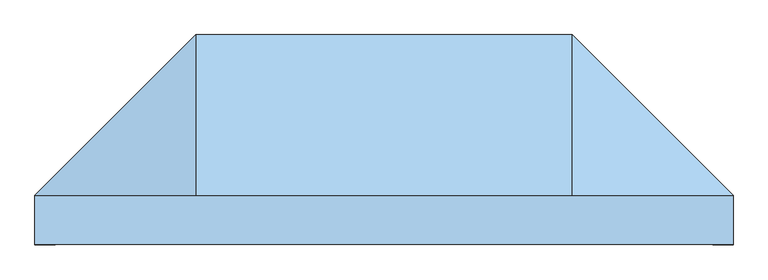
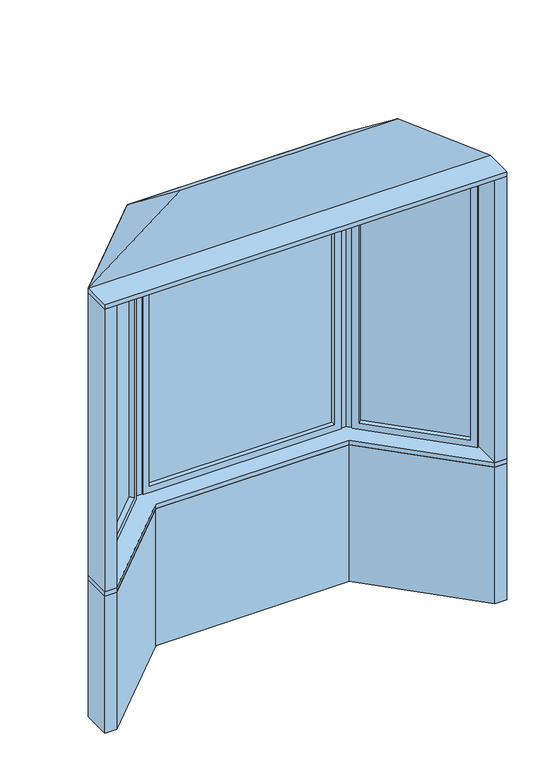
"""IFC4 building model written with IfcOpenShell, lengths in millimetres: window geometry, Pollard_Windows_Tudor Casement Bows and Bays : AML-BAY 45 AFR0616-10-600."""

from ifc_helpers import new_model, si_unit, frame, origin, origin_with_axes, place, context, project, spatial, polyline, outline, extrude, faceted_brep, source, transform, mapped, element, save


def window_bf1c5495(model_context):
    return source(origin(), model_context, "Body", "SolidModel", [
        extrude(outline(polyline([(1010.5964271, 104.763169), (1007.0043247, 101.1710666), (611.3827115, 496.7926797), (614.974814, 500.3847822), (1010.5964271, 104.763169)])), frame((0.0, 0.0, 823.1628), z_axis=(0.0, 0.0, 1.0), x_axis=(1.0, 0.0, 0.0)), (0.0, 0.0, 1.0), 1553.6704),
        faceted_brep([(1001.616171, 113.7434252, 835.8628), (1001.616171, 113.7434252, 2364.1332), (1019.5766833, 131.7039374, 2364.1332), (1019.5766833, 131.7039374, 835.8628), (1007.0043247, 101.1710666, 823.1628), (1007.0043247, 101.1710666, 2376.8332), (1010.5964271, 104.763169, 2376.8332), (1010.5964271, 104.763169, 823.1628), (980.0635563, 92.1908105, 835.8628), (980.0635563, 92.1908105, 2364.1332), (998.0240686, 110.1513227, 2364.1332), (998.0240686, 110.1513227, 835.8628), (1044.9369265, 106.3436941, 799.998), (1044.9369265, 106.3436941, 2399.998), (1005.4237996, 66.8305672, 2399.998), (1005.4237996, 66.8305672, 799.998), (623.9550701, 491.4045261, 2364.1332), (641.9155823, 509.3650383, 2364.1332), (611.3827115, 496.7926797, 2376.8332), (614.974814, 500.3847822, 2376.8332), (602.4024554, 469.8519114, 2364.1332), (620.3629677, 487.8124236, 2364.1332), (616.5553391, 534.7252816, 2399.998), (577.0422121, 495.2121547, 2399.998), (623.9550701, 491.4045261, 835.8628), (641.9155823, 509.3650383, 835.8628), (611.3827115, 496.7926797, 823.1628), (614.974814, 500.3847822, 823.1628), (602.4024554, 469.8519114, 835.8628), (620.3629677, 487.8124236, 835.8628), (616.5553391, 534.7252816, 799.998), (577.0422121, 495.2121547, 799.998)], [[[0, 1, 2, 3]], [[4, 5, 6, 7]], [[8, 9, 10, 11]], [[12, 13, 14, 15]], [[1, 16, 17, 2]], [[5, 18, 19, 6]], [[9, 20, 21, 10]], [[13, 22, 23, 14]], [[16, 24, 25, 17]], [[18, 26, 27, 19]], [[20, 28, 29, 21]], [[22, 30, 31, 23]], [[24, 0, 3, 25]], [[7, 6, 19, 27], [1, 0, 24, 16]], [[26, 4, 7, 27]], [[5, 4, 26, 18], [11, 10, 21, 29]], [[28, 8, 11, 29]], [[15, 14, 23, 31], [9, 8, 28, 20]], [[30, 12, 15, 31]], [[13, 12, 30, 22], [3, 2, 17, 25]]]),
        extrude(outline(polyline([(-614.974814, 500.3847822), (-611.3827115, 496.7926797), (-1007.0043247, 101.1710666), (-1010.5964271, 104.763169), (-614.974814, 500.3847822)])), frame((0.0, 0.0, 823.1628), z_axis=(0.0, 0.0, 1.0), x_axis=(1.0, 0.0, 0.0)), (0.0, 0.0, 1.0), 1553.6704),
        faceted_brep([(-620.3629677, 487.8124236, 2364.1332), (-620.3629677, 487.8124236, 835.8628), (-602.4024554, 469.8519114, 835.8628), (-602.4024554, 469.8519114, 2364.1332), (-614.974814, 500.3847822, 2376.8332), (-614.974814, 500.3847822, 823.1628), (-611.3827115, 496.7926797, 823.1628), (-611.3827115, 496.7926797, 2376.8332), (-641.9155823, 509.3650383, 2364.1332), (-641.9155823, 509.3650383, 835.8628), (-623.9550701, 491.4045261, 835.8628), (-623.9550701, 491.4045261, 2364.1332), (-577.0422121, 495.2121547, 2399.998), (-577.0422121, 495.2121547, 799.998), (-616.5553391, 534.7252816, 799.998), (-616.5553391, 534.7252816, 2399.998), (-998.0240686, 110.1513227, 835.8628), (-980.0635563, 92.1908105, 835.8628), (-1010.5964271, 104.763169, 823.1628), (-1007.0043247, 101.1710666, 823.1628), (-1019.5766833, 131.7039374, 835.8628), (-1001.616171, 113.7434252, 835.8628), (-1005.4237996, 66.8305672, 799.998), (-1044.9369265, 106.3436941, 799.998), (-998.0240686, 110.1513227, 2364.1332), (-980.0635563, 92.1908105, 2364.1332), (-1010.5964271, 104.763169, 2376.8332), (-1007.0043247, 101.1710666, 2376.8332), (-1019.5766833, 131.7039374, 2364.1332), (-1001.616171, 113.7434252, 2364.1332), (-1005.4237996, 66.8305672, 2399.998), (-1044.9369265, 106.3436941, 2399.998)], [[[0, 1, 2, 3]], [[4, 5, 6, 7]], [[8, 9, 10, 11]], [[12, 13, 14, 15]], [[1, 16, 17, 2]], [[5, 18, 19, 6]], [[9, 20, 21, 10]], [[13, 22, 23, 14]], [[16, 24, 25, 17]], [[18, 26, 27, 19]], [[20, 28, 29, 21]], [[22, 30, 31, 23]], [[13, 12, 30, 22], [3, 2, 17, 25]], [[24, 0, 3, 25]], [[7, 6, 19, 27], [1, 0, 24, 16]], [[26, 4, 7, 27]], [[5, 4, 26, 18], [11, 10, 21, 29]], [[28, 8, 11, 29]], [[15, 14, 23, 31], [9, 8, 28, 20]], [[30, 12, 15, 31]]]),
        extrude(outline(polyline([(508.0352, 544.6806207), (508.0352, 539.6006207), (-508.0352, 539.6006207), (-508.0352, 544.6806207), (508.0352, 544.6806207)])), frame((0.0, 0.0, 823.1628), z_axis=(0.0, 0.0, 1.0), x_axis=(1.0, 0.0, 0.0)), (0.0, 0.0, 1.0), 1553.6704),
        faceted_brep([(495.3352, 544.6806207, 835.8628), (495.3352, 544.6806207, 2364.1332), (495.3352, 570.0806207, 2364.1332), (495.3352, 570.0806207, 835.8628), (508.0352, 539.6006207, 823.1628), (508.0352, 539.6006207, 2376.8332), (508.0352, 544.6806207, 2376.8332), (508.0352, 544.6806207, 823.1628), (495.3352, 514.2006207, 835.8628), (495.3352, 514.2006207, 2364.1332), (495.3352, 539.6006207, 2364.1332), (495.3352, 539.6006207, 835.8628), (531.2, 570.0806207, 799.998), (531.2, 570.0806207, 2399.998), (531.2, 514.2006207, 2399.998), (531.2, 514.2006207, 799.998), (-495.3352, 544.6806207, 2364.1332), (-495.3352, 570.0806207, 2364.1332), (-508.0352, 539.6006207, 2376.8332), (-508.0352, 544.6806207, 2376.8332), (-495.3352, 514.2006207, 2364.1332), (-495.3352, 539.6006207, 2364.1332), (-531.2, 570.0806207, 2399.998), (-531.2, 514.2006207, 2399.998), (-495.3352, 544.6806207, 835.8628), (-495.3352, 570.0806207, 835.8628), (-508.0352, 539.6006207, 823.1628), (-508.0352, 544.6806207, 823.1628), (-495.3352, 514.2006207, 835.8628), (-495.3352, 539.6006207, 835.8628), (-531.2, 570.0806207, 799.998), (-531.2, 514.2006207, 799.998)], [[[0, 1, 2, 3]], [[4, 5, 6, 7]], [[8, 9, 10, 11]], [[12, 13, 14, 15]], [[1, 16, 17, 2]], [[5, 18, 19, 6]], [[9, 20, 21, 10]], [[13, 22, 23, 14]], [[16, 24, 25, 17]], [[18, 26, 27, 19]], [[20, 28, 29, 21]], [[22, 30, 31, 23]], [[13, 12, 30, 22], [3, 2, 17, 25]], [[24, 0, 3, 25]], [[7, 6, 19, 27], [1, 0, 24, 16]], [[26, 4, 7, 27]], [[5, 4, 26, 18], [11, 10, 21, 29]], [[28, 8, 11, 29]], [[15, 14, 23, 31], [9, 8, 28, 20]], [[30, 12, 15, 31]]]),
        faceted_brep([(1076.5, 74.7806207, 2425.398), (-1076.5, 74.7806207, 2425.398), (-581.2, 570.0806207, 2425.398), (581.2, 570.0806207, 2425.398), (-581.2, 74.7806207, 2806.398), (581.2, 74.7806207, 2806.398)], [[[0, 1, 2, 3]], [[1, 4, 2]], [[2, 4, 5, 3]], [[3, 5, 0]], [[0, 5, 4, 1]]]),
        extrude(outline(polyline([(-1076.5, -77.6193793), (-1076.5, 74.7806207), (-581.2, 570.0806207), (581.2, 570.0806207), (1076.5, 74.7806207), (1076.5, -77.6193793), (-1076.5, -77.6193793)])), frame((0.0, 0.0, 2399.998), z_axis=(0.0, 0.0, 1.0), x_axis=(1.0, 0.0, 0.0)), (0.0, 0.0, 1.0), 25.4),
        extrude(outline(polyline([(-1076.5, 74.7806207), (-1044.9369265, 106.3436941), (-1013.3738531, 74.7806207), (-1013.3738531, -77.6193793), (-1076.5, -77.6193793), (-1076.5, 74.7806207)])), frame((0.0, 0.0, 799.998), z_axis=(0.0, 0.0, 1.0), x_axis=(1.0, 0.0, 0.0)), (0.0, 0.0, 1.0), 1600.0),
        extrude(outline(polyline([(1076.5, -77.6193793), (1013.3738531, -77.6193793), (1013.3738531, 74.7806207), (1044.9369265, 106.3436941), (1076.5, 74.7806207), (1076.5, -77.6193793)])), frame((0.0, 0.0, 799.998), z_axis=(0.0, 0.0, 1.0), x_axis=(1.0, 0.0, 0.0)), (0.0, 0.0, 1.0), 1600.0),
        extrude(outline(polyline([(581.2, 570.0806207), (616.5553391, 534.7252816), (581.2, 499.3699425), (560.4893219, 520.0806207), (531.2, 520.0806207), (531.2, 570.0806207), (581.2, 570.0806207)])), frame((0.0, 0.0, 799.998), z_axis=(0.0, 0.0, 1.0), x_axis=(1.0, 0.0, 0.0)), (0.0, 0.0, 1.0), 1600.0),
        extrude(outline(polyline([(-581.2, 570.0806207), (-531.2, 570.0806207), (-531.2, 520.0806207), (-560.4893219, 520.0806207), (-581.2, 499.3699425), (-616.5553391, 534.7252816), (-581.2, 570.0806207)])), frame((0.0, 0.0, 799.998), z_axis=(0.0, 0.0, 1.0), x_axis=(1.0, 0.0, 0.0)), (0.0, 0.0, 1.0), 1600.0),
        extrude(outline(polyline([(-581.2, 570.0806207), (581.2, 570.0806207), (1076.5, 74.7806207), (1076.5, -77.6193793), (1013.3738531, -77.6193793), (518.0738531, 417.6806207), (-518.0738531, 417.6806207), (-1013.3738531, -77.6193793), (-1076.5, -77.6193793), (-1076.5, 74.7806207), (-581.2, 570.0806207)])), frame((0.0, 0.0, 774.598), z_axis=(0.0, 0.0, 1.0), x_axis=(1.0, 0.0, 0.0)), (0.0, 0.0, 1.0), 25.4),
        extrude(outline(polyline([(-1076.5, 74.7806207), (-581.2, 570.0806207), (581.2, 570.0806207), (1076.5, 74.7806207), (1076.5, -77.6193793), (1013.3738531, -77.6193793), (518.0738531, 417.6806207), (-518.0738531, 417.6806207), (-1013.3738531, -77.6193793), (-1076.5, -77.6193793), (-1076.5, 74.7806207)])), origin_with_axes(), (0.0, 0.0, 1.0), 774.598),
    ])


if __name__ == "__main__":
    model = new_model("IFC4")
    model_context = context("Model", 3, world=origin())
    ifc_project = project(units=[si_unit("LENGTHUNIT", "METRE", prefix="MILLI")], contexts=[model_context])
    site = spatial("IfcSite", under=ifc_project)
    building = spatial("IfcBuilding", under=site)
    placement = place(None, origin())
    window_shape = window_bf1c5495(model_context)
    element("IfcWindow", 1, ObjectType="Pollard_Windows_Tudor Casement Bows and Bays : AML-BAY 45 AFR0616-10-600", at=placement, inside=building, context=model_context, shape_type="MappedRepresentation", body=[
        mapped(window_shape, transform((0.0, 0.0, 0.0), x_axis=(1.0, 0.0, 0.0), y_axis=(0.0, 1.0, 0.0), z_axis=(0.0, 0.0, 1.0))),
    ])
    save(model, "model.ifc")
